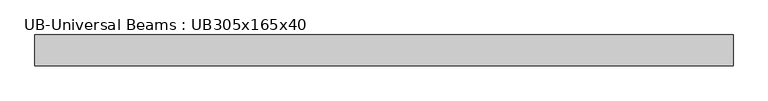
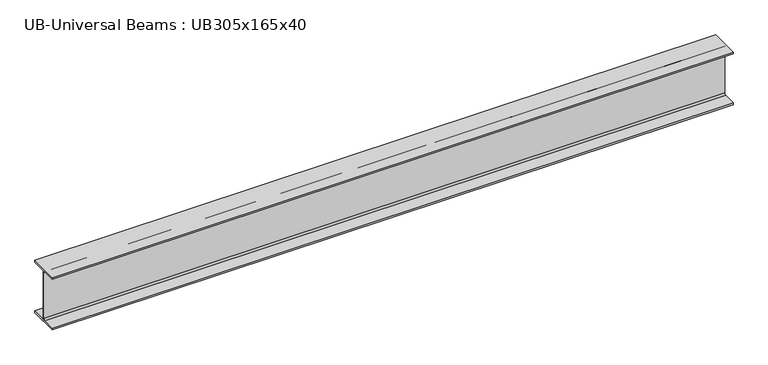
"""IFC4 building model written with IfcOpenShell, lengths in millimetres: beam geometry, UB-Universal Beams : UB305x165x40."""

from ifc_helpers import new_model, si_unit, point, frame, frame_2d, origin, place, context, project, spatial, polyline, circle_curve, trimmed, segment, composite_curve, outline, extrude, source, transform, mapped, element, save


def ub_universal_beams_ub305x165x40_b4233d25(model_context):
    return source(origin(), model_context, "Body", "SweptSolid", [
        extrude(outline(composite_curve([segment(polyline([(82.5, -141.5), (82.5, -151.7), (-82.5, -151.7), (-82.5, -141.5), (-11.9, -141.5)]), True, "CONTINUOUS"), segment(trimmed(circle_curve(frame_2d((-11.9, -132.6)), 8.9), [point((-11.9, -141.5))], [point((-3.0, -132.6))], True, "CARTESIAN"), True, "CONTINUOUS"), segment(polyline([(-3.0, -132.6), (-3.0, 132.6)]), True, "CONTINUOUS"), segment(trimmed(circle_curve(frame_2d((-11.9, 132.6)), 8.9), [point((-3.0, 132.6))], [point((-11.9, 141.5))], True, "CARTESIAN"), True, "CONTINUOUS"), segment(polyline([(-11.9, 141.5), (-82.5, 141.5), (-82.5, 151.7), (82.5, 151.7), (82.5, 141.5), (11.9, 141.5)]), True, "CONTINUOUS"), segment(trimmed(circle_curve(frame_2d((11.9, 132.6)), 8.9), [point((11.9, 141.5))], [point((3.0, 132.6))], True, "CARTESIAN"), True, "CONTINUOUS"), segment(polyline([(3.0, 132.6), (3.0, -132.6)]), True, "CONTINUOUS"), segment(trimmed(circle_curve(frame_2d((11.9, -132.6)), 8.9), [point((3.0, -132.6))], [point((11.9, -141.5))], True, "CARTESIAN"), True, "CONTINUOUS"), segment(polyline([(11.9, -141.5), (82.5, -141.5)]), True, "CONTINUOUS")], self_intersect=False)), frame((-1882.1, 0.0, 0.0), z_axis=(1.0, 0.0, 0.0), x_axis=(0.0, 1.0, 0.0)), (0.0, 0.0, 1.0), 3732.5),
    ])


if __name__ == "__main__":
    model = new_model("IFC4")
    model_context = context("Model", 3, world=origin())
    ifc_project = project(units=[si_unit("LENGTHUNIT", "METRE", prefix="MILLI")], contexts=[model_context])
    site = spatial("IfcSite", under=ifc_project)
    building = spatial("IfcBuilding", under=site)
    placement = place(None, origin())
    ub_universal_beams_ub305x165x40_shape = ub_universal_beams_ub305x165x40_b4233d25(model_context)
    element("IfcBeam", 1, ObjectType="UB-Universal Beams : UB305x165x40", at=placement, inside=building, context=model_context, shape_type="MappedRepresentation", body=[
        mapped(ub_universal_beams_ub305x165x40_shape, transform((0.0, 0.0, 0.0), x_axis=(1.0, 0.0, 0.0), y_axis=(0.0, 1.0, 0.0), z_axis=(0.0, 0.0, 1.0))),
    ])
    save(model, "model.ifc")
